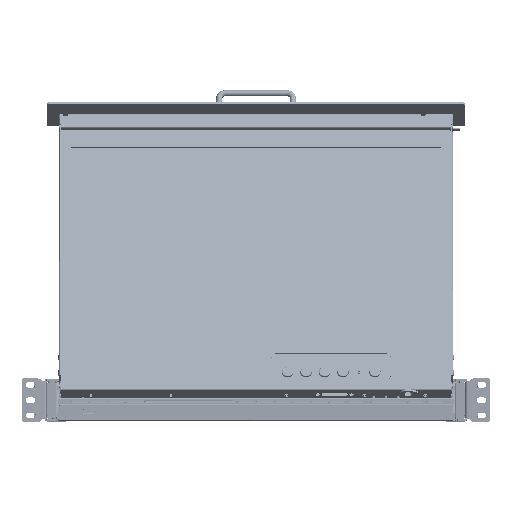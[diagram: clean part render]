
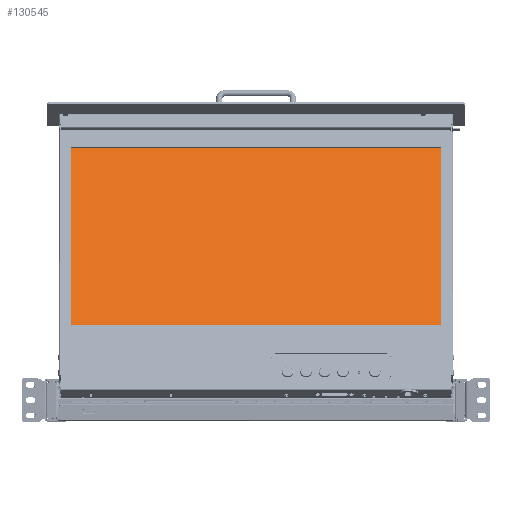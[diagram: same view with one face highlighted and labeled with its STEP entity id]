
A CAD part, top view. The second image highlights one B-rep face of the part: STEP entity #130545.
In plain terms, the highlighted planar face has unit normal (0, 0.521, 0.854).
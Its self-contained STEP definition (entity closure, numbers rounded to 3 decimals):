
#21494 = CARTESIAN_POINT ( 'NONE',  ( 7.601, 2.969, -13.69 ) ) ;
#21922 = CARTESIAN_POINT ( 'NONE',  ( -7.601, 10.331, -18.181 ) ) ;
#21928 = CARTESIAN_POINT ( 'NONE',  ( 7.601, 10.331, -18.181 ) ) ;
#22112 = CARTESIAN_POINT ( 'NONE',  ( -7.601, 2.969, -13.69 ) ) ;
#55723 = LINE ( 'NONE', #55835, #66933 ) ;
#55771 = DIRECTION ( 'NONE',  ( 1., 0., 0. ) ) ;
#55835 = CARTESIAN_POINT ( 'NONE',  ( -7.601, 2.969, -13.69 ) ) ;
#57070 = DIRECTION ( 'NONE',  ( 0., 0.854, -0.521 ) ) ;
#57108 = CARTESIAN_POINT ( 'NONE',  ( 7.601, 2.969, -13.69 ) ) ;
#57171 = LINE ( 'NONE', #57108, #67518 ) ;
#66933 = VECTOR ( 'NONE', #55771, 39.37 ) ;
#67518 = VECTOR ( 'NONE', #57070, 39.37 ) ;
#69217 = VECTOR ( 'NONE', #79661, 39.37 ) ;
#69244 = VECTOR ( 'NONE', #79953, 39.37 ) ;
#79511 = LINE ( 'NONE', #79733, #69217 ) ;
#79661 = DIRECTION ( 'NONE',  ( 0., -0.854, 0.521 ) ) ;
#79733 = CARTESIAN_POINT ( 'NONE',  ( -7.601, 2.969, -13.69 ) ) ;
#79830 = LINE ( 'NONE', #79867, #69244 ) ;
#79867 = CARTESIAN_POINT ( 'NONE',  ( -7.601, 10.331, -18.181 ) ) ;
#79953 = DIRECTION ( 'NONE',  ( -1., 0., 0. ) ) ;
#130545 = ADVANCED_FACE ( 'NONE', ( #649548 ), #649609, .F. ) ;
#277527 = ORIENTED_EDGE ( 'NONE', *, *, #416746, .T. ) ;
#277787 = ORIENTED_EDGE ( 'NONE', *, *, #416484, .T. ) ;
#277854 = ORIENTED_EDGE ( 'NONE', *, *, #416779, .T. ) ;
#277919 = ORIENTED_EDGE ( 'NONE', *, *, #416347, .T. ) ;
#342064 = EDGE_LOOP ( 'NONE', ( #277787, #277854, #277527, #277919 ) ) ;
#368537 = VERTEX_POINT ( 'NONE', #21494 ) ;
#368653 = VERTEX_POINT ( 'NONE', #21922 ) ;
#368658 = VERTEX_POINT ( 'NONE', #22112 ) ;
#368782 = VERTEX_POINT ( 'NONE', #21928 ) ;
#401872 = AXIS2_PLACEMENT_3D ( 'NONE', #649570, #649717, #649573 ) ;
#416347 = EDGE_CURVE ( 'NONE', #368658, #368537, #55723, .T. ) ;
#416484 = EDGE_CURVE ( 'NONE', #368537, #368782, #57171, .T. ) ;
#416746 = EDGE_CURVE ( 'NONE', #368653, #368658, #79511, .T. ) ;
#416779 = EDGE_CURVE ( 'NONE', #368782, #368653, #79830, .T. ) ;
#649548 = FACE_OUTER_BOUND ( 'NONE', #342064, .T. ) ;
#649570 = CARTESIAN_POINT ( 'NONE',  ( 7.601, 10.331, -18.181 ) ) ;
#649573 = DIRECTION ( 'NONE',  ( 0., 0.854, -0.521 ) ) ;
#649609 = PLANE ( 'NONE',  #401872 ) ;
#649717 = DIRECTION ( 'NONE',  ( 0., -0.521, -0.854 ) ) ;
